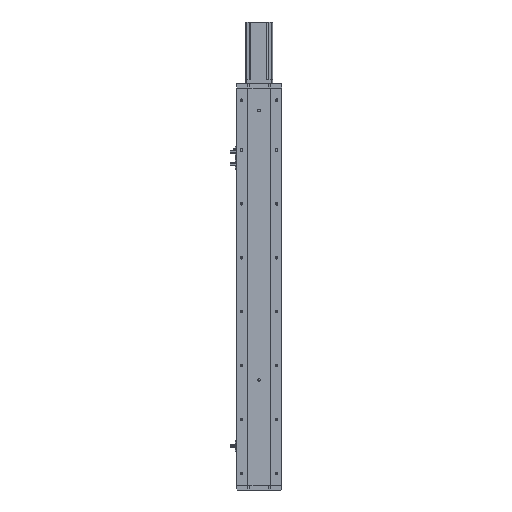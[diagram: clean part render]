
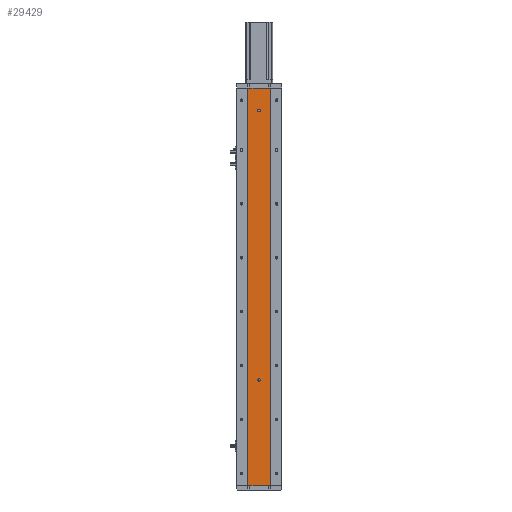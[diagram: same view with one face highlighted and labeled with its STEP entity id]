
A CAD part, left-side view. The second image highlights one B-rep face of the part: STEP entity #29429.
In plain terms, the highlighted planar face has unit normal (-1, 0, 0).
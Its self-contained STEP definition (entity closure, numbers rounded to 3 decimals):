
#233 = CARTESIAN_POINT ( 'NONE',  ( -18.926, -24.785, 0. ) ) ;
#754 = AXIS2_PLACEMENT_3D ( 'NONE', #13809, #35843, #16972 ) ;
#812 = AXIS2_PLACEMENT_3D ( 'NONE', #27373, #8446, #30511 ) ;
#1325 = CARTESIAN_POINT ( 'NONE',  ( -18.926, 0., 238. ) ) ;
#1738 = ORIENTED_EDGE ( 'NONE', *, *, #12191, .F. ) ;
#1937 = FACE_BOUND ( 'NONE', #4591, .T. ) ;
#2497 = VERTEX_POINT ( 'NONE', #11520 ) ;
#2586 = CARTESIAN_POINT ( 'NONE',  ( -18.926, 24.785, 885. ) ) ;
#2847 = DIRECTION ( 'NONE',  ( 0., 0., 1. ) ) ;
#3263 = DIRECTION ( 'NONE',  ( -1., 0., 0. ) ) ;
#4591 = EDGE_LOOP ( 'NONE', ( #1738, #6707 ) ) ;
#5116 = VECTOR ( 'NONE', #11864, 1000. ) ;
#5701 = DIRECTION ( 'NONE',  ( 0., -1., 0. ) ) ;
#6134 = CARTESIAN_POINT ( 'NONE',  ( -18.926, -24.785, 885. ) ) ;
#6707 = ORIENTED_EDGE ( 'NONE', *, *, #33994, .F. ) ;
#7996 = DIRECTION ( 'NONE',  ( 0., -1., 0. ) ) ;
#8238 = FACE_OUTER_BOUND ( 'NONE', #26345, .T. ) ;
#8446 = DIRECTION ( 'NONE',  ( 1., 0., 0. ) ) ;
#8551 = CARTESIAN_POINT ( 'NONE',  ( -18.926, 0., 232. ) ) ;
#8767 = AXIS2_PLACEMENT_3D ( 'NONE', #22071, #3263, #25246 ) ;
#9048 = CARTESIAN_POINT ( 'NONE',  ( -18.926, 0., 838. ) ) ;
#9071 = VECTOR ( 'NONE', #7996, 1000. ) ;
#10760 = EDGE_CURVE ( 'NONE', #2497, #21871, #40043, .T. ) ;
#11211 = DIRECTION ( 'NONE',  ( -1., 0., 0. ) ) ;
#11520 = CARTESIAN_POINT ( 'NONE',  ( -18.926, -24.785, 885. ) ) ;
#11864 = DIRECTION ( 'NONE',  ( 0., 0., -1. ) ) ;
#12191 = EDGE_CURVE ( 'NONE', #35909, #17850, #23675, .T. ) ;
#12483 = LINE ( 'NONE', #2586, #28284 ) ;
#13809 = CARTESIAN_POINT ( 'NONE',  ( -18.926, 0., 835. ) ) ;
#14638 = CIRCLE ( 'NONE', #31535, 3. ) ;
#16626 = FACE_BOUND ( 'NONE', #37313, .T. ) ;
#16972 = DIRECTION ( 'NONE',  ( 0., 0., 1. ) ) ;
#17452 = LINE ( 'NONE', #23719, #9071 ) ;
#17850 = VERTEX_POINT ( 'NONE', #8551 ) ;
#18904 = VERTEX_POINT ( 'NONE', #39052 ) ;
#19215 = ORIENTED_EDGE ( 'NONE', *, *, #30048, .T. ) ;
#19303 = AXIS2_PLACEMENT_3D ( 'NONE', #30077, #11211, #33243 ) ;
#19337 = CARTESIAN_POINT ( 'NONE',  ( -18.926, 24.785, 885. ) ) ;
#21552 = CARTESIAN_POINT ( 'NONE',  ( -18.926, 24.785, 0. ) ) ;
#21647 = DIRECTION ( 'NONE',  ( -1., 0., 0. ) ) ;
#21871 = VERTEX_POINT ( 'NONE', #233 ) ;
#22071 = CARTESIAN_POINT ( 'NONE',  ( -18.926, 0., 235. ) ) ;
#23675 = CIRCLE ( 'NONE', #8767, 3. ) ;
#23719 = CARTESIAN_POINT ( 'NONE',  ( -18.926, 24.785, 0. ) ) ;
#24100 = VERTEX_POINT ( 'NONE', #19337 ) ;
#25246 = DIRECTION ( 'NONE',  ( 0., 0., 1. ) ) ;
#25904 = ORIENTED_EDGE ( 'NONE', *, *, #32834, .F. ) ;
#26345 = EDGE_LOOP ( 'NONE', ( #19215, #28597, #28048, #30747 ) ) ;
#26719 = ORIENTED_EDGE ( 'NONE', *, *, #28330, .F. ) ;
#27373 = CARTESIAN_POINT ( 'NONE',  ( -18.926, 24.785, 885. ) ) ;
#28048 = ORIENTED_EDGE ( 'NONE', *, *, #30370, .F. ) ;
#28284 = VECTOR ( 'NONE', #5701, 1000. ) ;
#28330 = EDGE_CURVE ( 'NONE', #18904, #28998, #34047, .T. ) ;
#28597 = ORIENTED_EDGE ( 'NONE', *, *, #10760, .F. ) ;
#28998 = VERTEX_POINT ( 'NONE', #9048 ) ;
#29429 = ADVANCED_FACE ( 'NONE', ( #1937, #16626, #8238 ), #30384, .F. ) ;
#30048 = EDGE_CURVE ( 'NONE', #39992, #21871, #17452, .T. ) ;
#30077 = CARTESIAN_POINT ( 'NONE',  ( -18.926, 0., 235. ) ) ;
#30359 = EDGE_CURVE ( 'NONE', #24100, #39992, #37611, .T. ) ;
#30370 = EDGE_CURVE ( 'NONE', #24100, #2497, #12483, .T. ) ;
#30384 = PLANE ( 'NONE',  #812 ) ;
#30511 = DIRECTION ( 'NONE',  ( 0., 0., -1. ) ) ;
#30747 = ORIENTED_EDGE ( 'NONE', *, *, #30359, .T. ) ;
#31535 = AXIS2_PLACEMENT_3D ( 'NONE', #40467, #21647, #2847 ) ;
#32834 = EDGE_CURVE ( 'NONE', #28998, #18904, #14638, .T. ) ;
#33243 = DIRECTION ( 'NONE',  ( 0., 0., 1. ) ) ;
#33925 = CARTESIAN_POINT ( 'NONE',  ( -18.926, 24.785, 885. ) ) ;
#33994 = EDGE_CURVE ( 'NONE', #17850, #35909, #40013, .T. ) ;
#34047 = CIRCLE ( 'NONE', #754, 3. ) ;
#34491 = DIRECTION ( 'NONE',  ( 0., 0., -1. ) ) ;
#35843 = DIRECTION ( 'NONE',  ( -1., 0., 0. ) ) ;
#35909 = VERTEX_POINT ( 'NONE', #1325 ) ;
#37313 = EDGE_LOOP ( 'NONE', ( #25904, #26719 ) ) ;
#37611 = LINE ( 'NONE', #33925, #5116 ) ;
#39051 = VECTOR ( 'NONE', #34491, 1000. ) ;
#39052 = CARTESIAN_POINT ( 'NONE',  ( -18.926, 0., 832. ) ) ;
#39992 = VERTEX_POINT ( 'NONE', #21552 ) ;
#40013 = CIRCLE ( 'NONE', #19303, 3. ) ;
#40043 = LINE ( 'NONE', #6134, #39051 ) ;
#40467 = CARTESIAN_POINT ( 'NONE',  ( -18.926, 0., 835. ) ) ;
